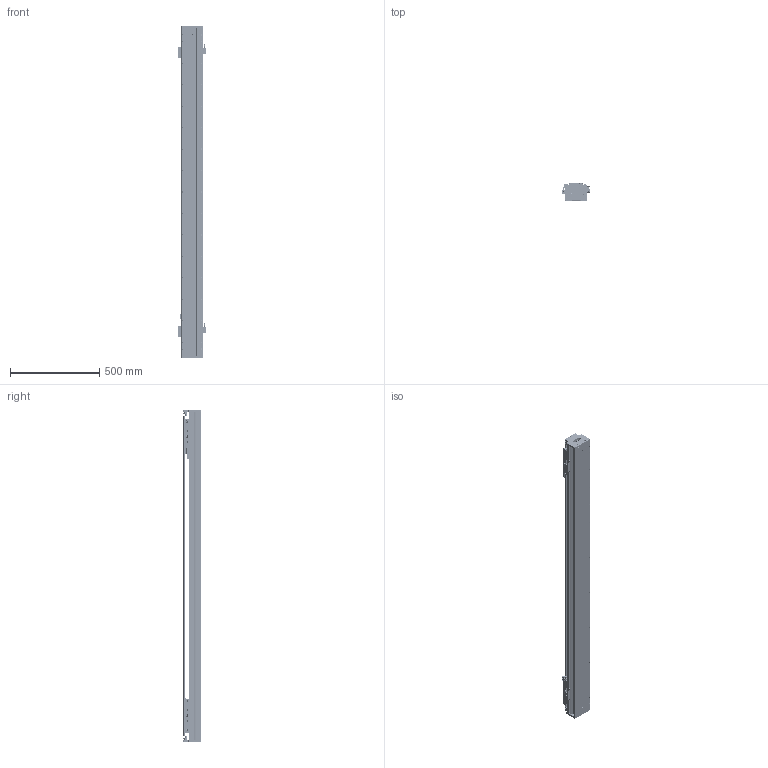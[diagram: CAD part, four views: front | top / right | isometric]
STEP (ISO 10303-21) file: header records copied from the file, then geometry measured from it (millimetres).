
FILE_DESCRIPTION (( 'STEP AP203' ), '1' );
FILE_NAME ('DKW119-2×C2-W060(T1340-L005-0.2).STEP', '2021-09-14T06:28:15', ( '微软用户' ), ( '微软中国' ), 'SwSTEP 2.0', 'SolidWorks 2018', '' );
FILE_SCHEMA (( 'CONFIG_CONTROL_DESIGN' ));
Length unit declared in the file: millimetre
Products named in the file (26): CKM02-W060_00; DKW119 单轴模组-拉钢带组件; CKMA01-W060-TRLxxx; DKW-DG-XJ-Z-00 笢潔滅袉砎蝶; pm-y65; DKW-HXJ-JY-00 遣喳砎蝶; DKW-GYP-ZJ-00 笢潔嫖萇覜茼え; 10980-0001-003-00 嫖萇羲壽嘐隅釱; 11062-0001-004-00 DKW119傷啣; DKW-KGZ-ZJ-00 中间光电开关支架; 嫖萇羲壽蚾饜极; 06652-0001-004-00 DKW120嶺輸菜輸; EE_SX674A; 嫖萇羲壽蚾饜极A; 12018-0001-002-00 詩湍; 12018-0001-001-00 菁釱; DKW119-2×C2-W060(T1340-L005-0.2); DKW-SG-GYP-H-00 嫖萇覜茼え; 砎蝶猾沭; MSB15-DG-U; RUS嫖掑喜; 12160-0000-003-00 DKW120詩湍嶺輸; DKW119-RU-DTJ-00 RU2黍杅芛盓殤; Ru2; 12160-0000-004-00  DKW120詩湍揤輸; 电机出线 ^DKW119-2×C2-W060(T1340-L005-0.2)
Assembly tree (45 placements, depth 3):
  DKW119-2×C2-W060(T1340-L005-0.2)
    12018-0001-001-00 菁釱
    MSB15-DG-U  x2
    DKW119-RU-DTJ-00 RU2黍杅芛盓殤  x2
    电机出线 ^DKW119-2×C2-W060(T1340-L005-0.2)  x2
    CKMA01-W060-TRLxxx
    DKW119 单轴模组-拉钢带组件
      DKW-HXJ-JY-00 遣喳砎蝶  x4
      11062-0001-004-00 DKW119傷啣  x2
      06652-0001-004-00 DKW120嶺輸菜輸  x4
      12018-0001-002-00 詩湍
      砎蝶猾沭  x2
      12160-0000-003-00 DKW120詩湍嶺輸  x2
      12160-0000-004-00  DKW120詩湍揤輸  x2
    嫖萇羲壽蚾饜极
      pm-y65  x2
      10980-0001-003-00 嫖萇羲壽嘐隅釱
    嫖萇羲壽蚾饜极A
      pm-y65  x2
      10980-0001-003-00 嫖萇羲壽嘐隅釱
    DKW-SG-GYP-H-00 嫖萇覜茼え  x2
    RUS嫖掑喜
    Ru2  x2
    CKM02-W060_00  x2
    DKW-DG-XJ-Z-00 笢潔滅袉砎蝶
    DKW-GYP-ZJ-00 笢潔嫖萇覜茼え
    DKW-KGZ-ZJ-00 中间光电开关支架
    EE_SX674A
Bounding box: 154.3 x 99 x 1856 mm (x, y, z)
Volume: 8838448.2 mm3; surface area: 2808173.8 mm2
Topology: 62 solids, 160 shells, 6433 faces, 17054 edges, 10918 vertices
Faces by surface type: plane 3460, cylinder 1945, cone 534, bspline 494
Entity records: 132687 total; most frequent: CARTESIAN_POINT 43866, ORIENTED_EDGE 17779, DIRECTION 17166, EDGE_CURVE 8930, VERTEX_POINT 5852, AXIS2_PLACEMENT_3D 5786, VECTOR 5594, LINE 5594
